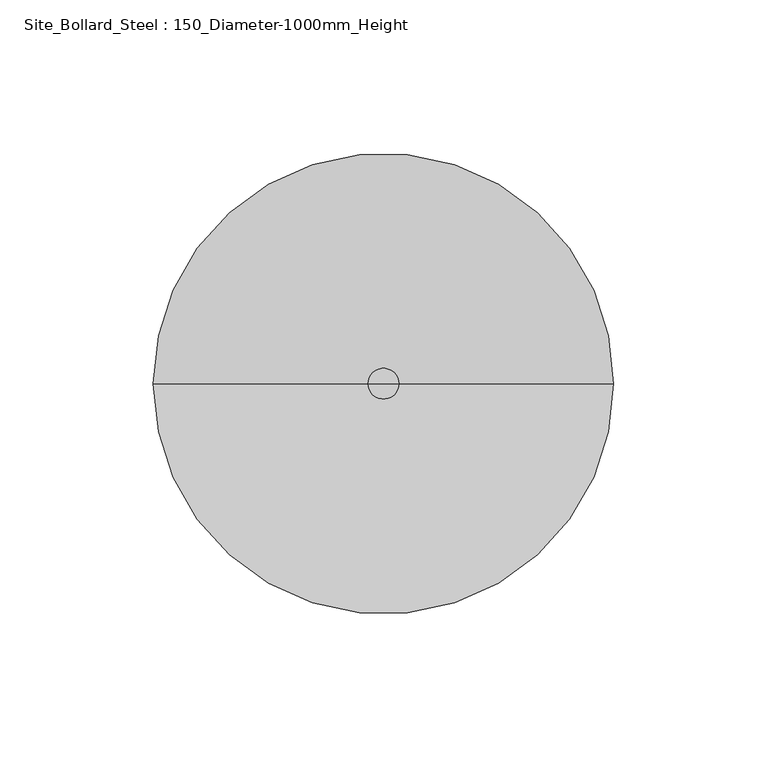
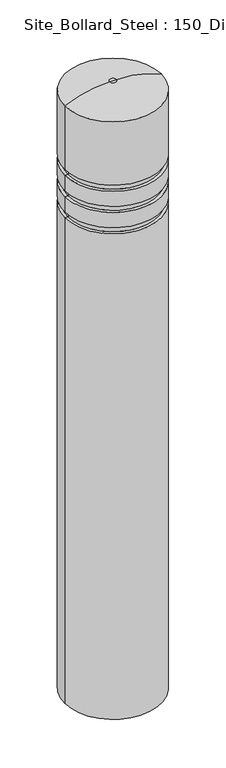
"""IFC4 building model written with IfcOpenShell, lengths in millimetres: geographic element geometry, Site_Bollard_Steel : 150_Diameter-1000mm_Height."""

import ifcopenshell
import ifcopenshell.guid

model = None  # the IFC model being written
_history = None  # IfcOwnerHistory: only IFC2X3 demands one
_inside = {}  # id of a spatial element -> (the spatial element, [elements in it])
_under = {}  # id of a project, library or spatial element -> (it, [spatial elements below it])
_declared = {}  # id of a project -> (the project, [libraries it declares])
_typed = {}  # id of a type object -> (the type object, [elements of that type])
_made_of = {}  # id of a material, layer set ... -> (it, [elements and type objects made of it])


def new_model(schema):
    """Start an empty IFC model of exactly this schema.

    Asked for "IFC4X3", IfcOpenShell would pick the latest addendum, in which some entities
    have other attributes; the version numbers below select the first issue.
    IFC2X3 requires an IfcOwnerHistory on every rooted entity: one is made here for all.
    """
    global model, _history
    if schema == "IFC4X3":
        model = ifcopenshell.file(schema_version=(4, 3, 0, 0))
    else:
        model = ifcopenshell.file(schema=schema)
    _inside.clear()
    _under.clear()
    _declared.clear()
    _typed.clear()
    _made_of.clear()
    _history = None
    if model.schema == "IFC2X3":
        org = make("IfcOrganization", Name="unknown")
        user = make(
            "IfcPersonAndOrganization",
            ThePerson=make("IfcPerson", FamilyName="unknown"),
            TheOrganization=org,
        )
        app = make(
            "IfcApplication",
            ApplicationDeveloper=org,
            Version="unknown",
            ApplicationFullName="unknown",
            ApplicationIdentifier="unknown",
        )
        _history = make(
            "IfcOwnerHistory",
            OwningUser=user,
            OwningApplication=app,
            ChangeAction="ADDED",
            CreationDate=0,
        )
    return model


def make(cls, **values):
    """One entity of the class cls with the attributes given. An attribute that is None is left unset."""
    return model.create_entity(
        cls, **{name: value for name, value in values.items() if value is not None}
    )


def rooted(cls, **values):
    """An entity with a GlobalId (a new one), such as an element, a storey or a relation."""
    return make(cls, GlobalId=ifcopenshell.guid.new(), OwnerHistory=_history, **values)


def si_unit(unit_type, name, prefix=None):
    """IfcSIUnit, for example si_unit("LENGTHUNIT", "METRE", prefix="MILLI")."""
    return make("IfcSIUnit", UnitType=unit_type, Prefix=prefix, Name=name)


def assignment(units):
    """IfcUnitAssignment: the units of a project."""
    return None if units is None else make("IfcUnitAssignment", Units=units)


def point(xyz):
    """IfcCartesianPoint."""
    return None if xyz is None else make("IfcCartesianPoint", Coordinates=xyz)


def direction(xyz):
    """IfcDirection."""
    return None if xyz is None else make("IfcDirection", DirectionRatios=xyz)


def frame(location, z_axis=None, x_axis=None):
    """IfcAxis2Placement3D, a coordinate frame: its origin and axes. An axis left out is left unset."""
    return make(
        "IfcAxis2Placement3D",
        Location=point(location),
        Axis=direction(z_axis),
        RefDirection=direction(x_axis),
    )


def origin():
    """The frame at (0, 0, 0) with its axes left unset."""
    return frame((0.0, 0.0, 0.0))


def place(relative_to, where):
    """IfcLocalPlacement: puts the frame where relative to a parent placement (None: the world)."""
    return make(
        "IfcLocalPlacement", PlacementRelTo=relative_to, RelativePlacement=where
    )


def context(
    kind, dimensions, precision=None, world=None, true_north=None, identifier=None
):
    """IfcGeometricRepresentationContext, for example the 3D "Model" context."""
    return make(
        "IfcGeometricRepresentationContext",
        ContextIdentifier=identifier,
        ContextType=kind,
        CoordinateSpaceDimension=dimensions,
        Precision=precision,
        WorldCoordinateSystem=world,
        TrueNorth=true_north,
    )


def project(units=None, contexts=None):
    """IfcProject with its units and contexts."""
    return rooted(
        "IfcProject",
        Name="project",
        RepresentationContexts=contexts,
        UnitsInContext=assignment(units),
    )


def spatial(cls, under=None, at=None, **own):
    """A site, building, storey or space (cls), placed at a placement, below another one or the project."""
    s = rooted(cls, ObjectPlacement=at, **own)
    if under is not None:
        _under.setdefault(under.id(), (under, []))[1].append(s)
    return s


def circle_curve(where, radius):
    """IfcCircle in the frame where."""
    return make("IfcCircle", Position=where, Radius=radius)


def ellipse_curve(where, semi_axis1, semi_axis2):
    """IfcEllipse in the frame where."""
    return make(
        "IfcEllipse", Position=where, SemiAxis1=semi_axis1, SemiAxis2=semi_axis2
    )


def trimmed(basis, trim1, trim2, sense, master):
    """IfcTrimmedCurve: the piece of a basis curve between two trims."""
    return make(
        "IfcTrimmedCurve",
        BasisCurve=basis,
        Trim1=trim1,
        Trim2=trim2,
        SenseAgreement=sense,
        MasterRepresentation=master,
    )


def shape(context_of_items, identifier, shape_type, items):
    """IfcShapeRepresentation: the items that make up one representation, for example the "Body"."""
    return make(
        "IfcShapeRepresentation",
        ContextOfItems=context_of_items,
        RepresentationIdentifier=identifier,
        RepresentationType=shape_type,
        Items=items,
    )


def source(mapping_origin, context_of_items, identifier, shape_type, items):
    """IfcRepresentationMap: a shape defined once, which mapped items show again and again."""
    return make(
        "IfcRepresentationMap",
        MappingOrigin=mapping_origin,
        MappedRepresentation=shape(context_of_items, identifier, shape_type, items),
    )


def transform(
    local_origin,
    x_axis=None,
    y_axis=None,
    z_axis=None,
    scale=None,
    scale2=None,
    scale3=None,
    uniform=True,
):
    """IfcCartesianTransformationOperator3D, or its non-uniform kind. x_axis, y_axis, z_axis: its Axis1, 2, 3."""
    if uniform:
        return make(
            "IfcCartesianTransformationOperator3D",
            Axis1=direction(x_axis),
            Axis2=direction(y_axis),
            LocalOrigin=point(local_origin),
            Scale=scale,
            Axis3=direction(z_axis),
        )
    return make(
        "IfcCartesianTransformationOperator3DnonUniform",
        Axis1=direction(x_axis),
        Axis2=direction(y_axis),
        LocalOrigin=point(local_origin),
        Scale=scale,
        Axis3=direction(z_axis),
        Scale2=scale2,
        Scale3=scale3,
    )


def mapped(mapping_source, mapping_target):
    """IfcMappedItem: shows the shape of a source again, moved by a transform."""
    return make(
        "IfcMappedItem", MappingSource=mapping_source, MappingTarget=mapping_target
    )


def made_of(thing, what):
    """Note that an element or type object is made of a material, layer set ...; save() writes the relation."""
    if what is not None:
        _made_of.setdefault(what.id(), (what, []))[1].append(thing)
    return thing


def element(
    cls,
    number,
    at=None,
    inside=None,
    cuts=None,
    type_object=None,
    material=None,
    context=None,
    identifier="Body",
    shape_type=None,
    held_by="IfcProductDefinitionShape",
    body=None,
    shapes=None,
    **own,
):
    """One element of the class cls, such as IfcWall. Its Tag is "e" and its number.

    at: its placement. inside: the storey or other place that contains it. cuts: it is an
    opening in that element (IfcRelVoidsElement). A single representation is given by context,
    identifier, shape_type and body (its items); several are given by shapes. held_by: the class
    of the entity that holds the representations. save() writes the other relations.
    """
    e = rooted(cls, Tag="e%d" % number, ObjectPlacement=at, **own)
    if body is not None:
        shapes = [shape(context, identifier, shape_type, body)]
    if shapes is not None:
        e.Representation = make(held_by, Representations=shapes)
    if inside is not None:
        _inside.setdefault(inside.id(), (inside, []))[1].append(e)
    if cuts is not None:
        rooted(
            "IfcRelVoidsElement", RelatingBuildingElement=cuts, RelatedOpeningElement=e
        )
    if type_object is not None:
        _typed.setdefault(type_object.id(), (type_object, []))[1].append(e)
    return made_of(e, material)


def aggregate(whole, parts):
    """IfcRelAggregates: a whole, such as a stair, and the parts it consists of."""
    return rooted("IfcRelAggregates", RelatingObject=whole, RelatedObjects=parts)


def save(model, path):
    """Write the relations noted so far, then the file.

    IfcRelAggregates (storeys below a building ...), IfcRelContainedInSpatialStructure (elements
    in a storey), IfcRelDefinesByType, IfcRelAssociatesMaterial and IfcRelDeclares: one each for
    every whole, place, type object, material and project.
    """
    for whole, parts in _under.values():
        aggregate(whole, parts)
    for where, things in _inside.values():
        rooted(
            "IfcRelContainedInSpatialStructure",
            RelatedElements=things,
            RelatingStructure=where,
        )
    for kind, things in _typed.values():
        rooted("IfcRelDefinesByType", RelatedObjects=things, RelatingType=kind)
    for what, things in _made_of.values():
        rooted("IfcRelAssociatesMaterial", RelatedObjects=things, RelatingMaterial=what)
    for by, libraries in _declared.values():
        rooted("IfcRelDeclares", RelatingContext=by, RelatedDefinitions=libraries)
    model.write(path)


def plane_surface(at):
    """IfcPlane: the flat surface through the origin of the frame at, square to its z axis."""
    return make("IfcPlane", Position=at)


def cylinder_surface(at, radius):
    """IfcCylindricalSurface: all points at the distance radius from the z axis of the frame at."""
    return make("IfcCylindricalSurface", Position=at, Radius=radius)


def revolved_surface(curve, axis_point, axis_direction):
    """IfcSurfaceOfRevolution: the curve turned about the line through axis_point along axis_direction."""
    return make(
        "IfcSurfaceOfRevolution",
        SweptCurve=make("IfcArbitraryOpenProfileDef", ProfileType="CURVE", Curve=curve),
        AxisPosition=make("IfcAxis1Placement", Location=point(axis_point), Axis=direction(axis_direction)),
    )


def advanced_brep(points, edges, surfaces, faces):
    """IfcAdvancedBrep: a solid bounded by faces that lie on surfaces and meet in shared edges.

    An edge is (start, end): straight between two places in points (the first is 0);
    or (start, end, curve); or (start, end, curve, False) where it runs against its curve.
    A face is (place in surfaces, loops), or (place, loops, False) where it looks against
    its surface's normal. A loop lists edges by number (the first is 1), with a minus sign
    where the edge is run from its end to its start. The first loop is the outer one.
    """
    corners = [point(p) for p in points]
    vertices = [make("IfcVertexPoint", VertexGeometry=c) for c in corners]
    made = []
    for start, end, *more in edges:
        made.append(
            make(
                "IfcEdgeCurve",
                EdgeStart=vertices[start],
                EdgeEnd=vertices[end],
                EdgeGeometry=more[0] if more else make("IfcPolyline", Points=[corners[start], corners[end]]),
                SameSense=more[1] if len(more) > 1 else True,
            )
        )
    hull = []
    for where, loops, *sense in faces:
        bounds = []
        for j, loop in enumerate(loops):
            ring = [make("IfcOrientedEdge", EdgeElement=made[abs(k) - 1], Orientation=k > 0) for k in loop]
            bounds.append(
                make(
                    "IfcFaceOuterBound" if j == 0 else "IfcFaceBound",
                    Bound=make("IfcEdgeLoop", EdgeList=ring),
                    Orientation=True,
                )
            )
        hull.append(make("IfcAdvancedFace", Bounds=bounds, FaceSurface=surfaces[where], SameSense=sense[0] if sense else True))
    return make("IfcAdvancedBrep", Outer=make("IfcClosedShell", CfsFaces=hull))


def site_bollard_steel_150_diameter_1000mm_height_f95ce4ed(model_context):
    return source(origin(), model_context, "Body", "AdvancedBrep", [
        advanced_brep(
        [(70.4544105, -4.2111108, 0.0), (-79.5455895, -4.2111108, 0.0), (-79.5455895, -4.2111108, 800.0), (70.4544105, -4.2111108, 800.0), (-4.5455895, -4.2111108, 0.0), (0.4544105, -4.2111108, 1000.0), (-9.5455895, -4.2111108, 1000.0), (-4.5455895, -4.2111108, 1000.0), (70.4544105, -4.2111108, 984.6496028), (-79.5455895, -4.2111108, 984.6496028), (70.4544105, -4.2111108, 880.0), (-79.5455895, -4.2111108, 880.0), (65.4544105, -4.2111108, 880.0), (-74.5455895, -4.2111108, 880.0), (65.4544105, -4.2111108, 870.0), (-74.5455895, -4.2111108, 870.0), (70.4544105, -4.2111108, 870.0), (-79.5455895, -4.2111108, 870.0), (70.4544105, -4.2111108, 845.0), (-79.5455895, -4.2111108, 845.0), (65.4544105, -4.2111108, 845.0), (-74.5455895, -4.2111108, 845.0), (65.4544105, -4.2111108, 835.0), (-74.5455895, -4.2111108, 835.0), (70.4544105, -4.2111108, 835.0), (-79.5455895, -4.2111108, 835.0), (70.4544105, -4.2111108, 810.0), (-79.5455895, -4.2111108, 810.0), (65.4544105, -4.2111108, 810.0), (-74.5455895, -4.2111108, 810.0), (65.4544105, -4.2111108, 800.0), (-74.5455895, -4.2111108, 800.0)],
        [
            (0, 1, circle_curve(frame((-4.5455895, -4.2111108, 0.0), z_axis=(0.0, 0.0, 1.0), x_axis=(-1.0, 0.0, 0.0)), 75.0)),
            (1, 2),
            (2, 3, circle_curve(frame((-4.5455895, -4.2111108, 800.0), z_axis=(0.0, 0.0, -1.0), x_axis=(-1.0, 0.0, 0.0)), 75.0)),
            (3, 0),
            (1, 0, circle_curve(frame((-4.5455895, -4.2111108, 0.0), z_axis=(0.0, 0.0, 1.0), x_axis=(-1.0, 0.0, 0.0)), 75.0)),
            (3, 2, circle_curve(frame((-4.5455895, -4.2111108, 800.0), z_axis=(0.0, 0.0, -1.0), x_axis=(-1.0, 0.0, 0.0)), 75.0)),
            (4, 1),
            (0, 4),
            (5, 6, circle_curve(frame((-4.5455895, -4.2111108, 1000.0), z_axis=(0.0, 0.0, 1.0), x_axis=(-1.0, 0.0, 0.0)), 5.0)),
            (6, 7),
            (7, 5),
            (6, 5, circle_curve(frame((-4.5455895, -4.2111108, 1000.0), z_axis=(0.0, 0.0, 1.0), x_axis=(-1.0, 0.0, 0.0)), 5.0)),
            (8, 9, circle_curve(frame((-4.5455895, -4.2111108, 984.6496028), z_axis=(0.0, 0.0, 1.0), x_axis=(-1.0, 0.0, 0.0)), 75.0)),
            (9, 6, circle_curve(frame((-9.5455895, -4.2111108, 832.7198112), z_axis=(0.0, 1.0, 0.0), x_axis=(1.0, 0.0, 0.0)), 167.2801888)),
            (5, 8, circle_curve(frame((0.4544105, -4.2111108, 832.7198112), z_axis=(0.0, 1.0, 0.0), x_axis=(-1.0, 0.0, 0.0)), 167.2801888)),
            (9, 8, circle_curve(frame((-4.5455895, -4.2111108, 984.6496028), z_axis=(0.0, 0.0, 1.0), x_axis=(-1.0, 0.0, 0.0)), 75.0)),
            (10, 11, circle_curve(frame((-4.5455895, -4.2111108, 880.0), z_axis=(0.0, 0.0, 1.0), x_axis=(-1.0, 0.0, 0.0)), 75.0)),
            (11, 9),
            (8, 10),
            (11, 10, circle_curve(frame((-4.5455895, -4.2111108, 880.0), z_axis=(0.0, 0.0, 1.0), x_axis=(-1.0, 0.0, 0.0)), 75.0)),
            (12, 13, circle_curve(frame((-4.5455895, -4.2111108, 880.0), z_axis=(0.0, 0.0, 1.0), x_axis=(-1.0, 0.0, 0.0)), 70.0)),
            (13, 11),
            (10, 12),
            (13, 12, circle_curve(frame((-4.5455895, -4.2111108, 880.0), z_axis=(0.0, 0.0, 1.0), x_axis=(-1.0, 0.0, 0.0)), 70.0)),
            (14, 15, circle_curve(frame((-4.5455895, -4.2111108, 870.0), z_axis=(0.0, 0.0, 1.0), x_axis=(-1.0, 0.0, 0.0)), 70.0)),
            (15, 13),
            (12, 14),
            (15, 14, circle_curve(frame((-4.5455895, -4.2111108, 870.0), z_axis=(0.0, 0.0, 1.0), x_axis=(-1.0, 0.0, 0.0)), 70.0)),
            (16, 17, circle_curve(frame((-4.5455895, -4.2111108, 870.0), z_axis=(0.0, 0.0, 1.0), x_axis=(-1.0, 0.0, 0.0)), 75.0)),
            (17, 15),
            (14, 16),
            (17, 16, circle_curve(frame((-4.5455895, -4.2111108, 870.0), z_axis=(0.0, 0.0, 1.0), x_axis=(-1.0, 0.0, 0.0)), 75.0)),
            (18, 19, circle_curve(frame((-4.5455895, -4.2111108, 845.0), z_axis=(0.0, 0.0, 1.0), x_axis=(-1.0, 0.0, 0.0)), 75.0)),
            (19, 17),
            (16, 18),
            (19, 18, circle_curve(frame((-4.5455895, -4.2111108, 845.0), z_axis=(0.0, 0.0, 1.0), x_axis=(-1.0, 0.0, 0.0)), 75.0)),
            (20, 21, circle_curve(frame((-4.5455895, -4.2111108, 845.0), z_axis=(0.0, 0.0, 1.0), x_axis=(-1.0, 0.0, 0.0)), 70.0)),
            (21, 19),
            (18, 20),
            (21, 20, circle_curve(frame((-4.5455895, -4.2111108, 845.0), z_axis=(0.0, 0.0, 1.0), x_axis=(-1.0, 0.0, 0.0)), 70.0)),
            (22, 23, circle_curve(frame((-4.5455895, -4.2111108, 835.0), z_axis=(0.0, 0.0, 1.0), x_axis=(-1.0, 0.0, 0.0)), 70.0)),
            (23, 21),
            (20, 22),
            (23, 22, circle_curve(frame((-4.5455895, -4.2111108, 835.0), z_axis=(0.0, 0.0, 1.0), x_axis=(-1.0, 0.0, 0.0)), 70.0)),
            (24, 25, circle_curve(frame((-4.5455895, -4.2111108, 835.0), z_axis=(0.0, 0.0, 1.0), x_axis=(-1.0, 0.0, 0.0)), 75.0)),
            (25, 23),
            (22, 24),
            (25, 24, circle_curve(frame((-4.5455895, -4.2111108, 835.0), z_axis=(0.0, 0.0, 1.0), x_axis=(-1.0, 0.0, 0.0)), 75.0)),
            (26, 27, circle_curve(frame((-4.5455895, -4.2111108, 810.0), z_axis=(0.0, 0.0, 1.0), x_axis=(-1.0, 0.0, 0.0)), 75.0)),
            (27, 25),
            (24, 26),
            (27, 26, circle_curve(frame((-4.5455895, -4.2111108, 810.0), z_axis=(0.0, 0.0, 1.0), x_axis=(-1.0, 0.0, 0.0)), 75.0)),
            (28, 29, circle_curve(frame((-4.5455895, -4.2111108, 810.0), z_axis=(0.0, 0.0, 1.0), x_axis=(-1.0, 0.0, 0.0)), 70.0)),
            (29, 27),
            (26, 28),
            (29, 28, circle_curve(frame((-4.5455895, -4.2111108, 810.0), z_axis=(0.0, 0.0, 1.0), x_axis=(-1.0, 0.0, 0.0)), 70.0)),
            (30, 31, circle_curve(frame((-4.5455895, -4.2111108, 800.0), z_axis=(0.0, 0.0, 1.0), x_axis=(-1.0, 0.0, 0.0)), 70.0)),
            (31, 29),
            (28, 30),
            (31, 30, circle_curve(frame((-4.5455895, -4.2111108, 800.0), z_axis=(0.0, 0.0, 1.0), x_axis=(-1.0, 0.0, 0.0)), 70.0)),
            (2, 31),
            (30, 3),
        ],
        [
            cylinder_surface(frame((-4.5455895, -4.2111108, 1040.0), z_axis=(0.0, 0.0, -1.0), x_axis=(-1.0, 0.0, 0.0)), 75.0),
            plane_surface(frame((-4.5455895, -4.2111108, 0.0), z_axis=(0.0, 0.0, -1.0), x_axis=(-1.0, 0.0, 0.0))),
            plane_surface(frame((-4.5455895, -4.2111108, 1000.0), z_axis=(0.0, 0.0, 1.0), x_axis=(-1.0, 0.0, 0.0))),
            revolved_surface(trimmed(ellipse_curve(frame((-9.5455895, -4.2111108, 832.7198112), z_axis=(0.0, -1.0, 0.0), x_axis=(1.0, 0.0, 0.0)), 167.2801888, 167.2801888), [point((-9.5455895, -4.2111108, 1000.0))], [point((-79.5455895, -4.2111108, 984.6496028))], True, "CARTESIAN"), (-4.5455895, -4.2111108, 1040.0), (0.0, 0.0, -1.0)),
            plane_surface(frame((-4.5455895, -4.2111108, 880.0), z_axis=(0.0, 0.0, -1.0), x_axis=(-1.0, 0.0, 0.0))),
            cylinder_surface(frame((-4.5455895, -4.2111108, 1040.0), z_axis=(0.0, 0.0, -1.0), x_axis=(-1.0, 0.0, 0.0)), 70.0),
            plane_surface(frame((-4.5455895, -4.2111108, 870.0), z_axis=(0.0, 0.0, 1.0), x_axis=(-1.0, 0.0, 0.0))),
            plane_surface(frame((-4.5455895, -4.2111108, 845.0), z_axis=(0.0, 0.0, -1.0), x_axis=(-1.0, 0.0, 0.0))),
            plane_surface(frame((-4.5455895, -4.2111108, 835.0), z_axis=(0.0, 0.0, 1.0), x_axis=(-1.0, 0.0, 0.0))),
            plane_surface(frame((-4.5455895, -4.2111108, 810.0), z_axis=(0.0, 0.0, -1.0), x_axis=(-1.0, 0.0, 0.0))),
            plane_surface(frame((-4.5455895, -4.2111108, 800.0), z_axis=(0.0, 0.0, 1.0), x_axis=(-1.0, 0.0, 0.0))),
        ],
        [
            (0, [[1, 2, 3, 4]]),
            (0, [[5, -4, 6, -2]]),
            (1, [[7, -1, 8]]),
            (1, [[-8, -5, -7]]),
            (2, [[9, 10, 11]]),
            (2, [[12, -11, -10]]),
            (3, [[13, 14, -9, 15]]),
            (3, [[16, -15, -12, -14]]),
            (0, [[17, 18, -13, 19]]),
            (0, [[20, -19, -16, -18]]),
            (4, [[21, 22, -17, 23]]),
            (4, [[24, -23, -20, -22]]),
            (5, [[25, 26, -21, 27]]),
            (5, [[28, -27, -24, -26]]),
            (6, [[29, 30, -25, 31]]),
            (6, [[32, -31, -28, -30]]),
            (0, [[33, 34, -29, 35]]),
            (0, [[36, -35, -32, -34]]),
            (7, [[37, 38, -33, 39]]),
            (7, [[40, -39, -36, -38]]),
            (5, [[41, 42, -37, 43]]),
            (5, [[44, -43, -40, -42]]),
            (8, [[45, 46, -41, 47]]),
            (8, [[48, -47, -44, -46]]),
            (0, [[49, 50, -45, 51]]),
            (0, [[52, -51, -48, -50]]),
            (9, [[53, 54, -49, 55]]),
            (9, [[56, -55, -52, -54]]),
            (5, [[57, 58, -53, 59]]),
            (5, [[60, -59, -56, -58]]),
            (10, [[-3, 61, -57, 62]]),
            (10, [[-6, -62, -60, -61]]),
        ],
    ),
    ])


if __name__ == "__main__":
    model = new_model("IFC4")
    model_context = context("Model", 3, world=origin())
    ifc_project = project(units=[si_unit("LENGTHUNIT", "METRE", prefix="MILLI")], contexts=[model_context])
    site = spatial("IfcSite", under=ifc_project)
    building = spatial("IfcBuilding", under=site)
    placement = place(None, origin())
    site_bollard_steel_150_diameter_1000mm_height_shape = site_bollard_steel_150_diameter_1000mm_height_f95ce4ed(model_context)
    element("IfcGeographicElement", 1, ObjectType="Site_Bollard_Steel : 150_Diameter-1000mm_Height", at=placement, inside=building, context=model_context, shape_type="MappedRepresentation", body=[
        mapped(site_bollard_steel_150_diameter_1000mm_height_shape, transform((0.0, 0.0, 0.0), x_axis=(1.0, 0.0, 0.0), y_axis=(0.0, 1.0, 0.0), z_axis=(0.0, 0.0, 1.0))),
    ])
    save(model, "model.ifc")
